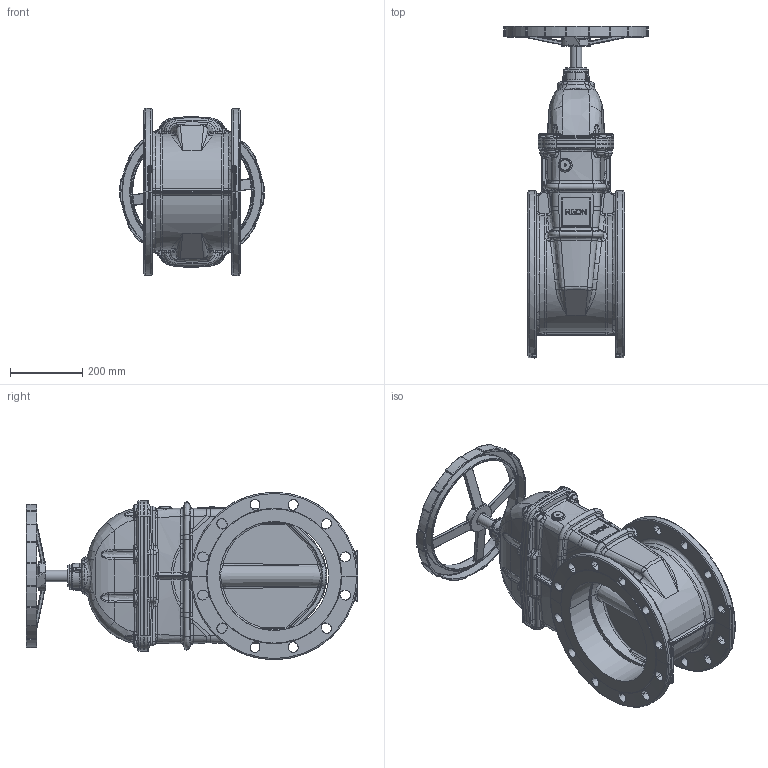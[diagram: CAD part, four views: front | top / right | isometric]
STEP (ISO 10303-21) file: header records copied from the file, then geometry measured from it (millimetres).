
FILE_DESCRIPTION (( 'STEP AP203' ), '1' );
FILE_NAME ('DN300掅概.STEP', '2026-09-23T03:54:12', ( 'Windows 蚚誧' ), ( 'Microsoft' ), 'SwSTEP 2.0', 'SolidWorks 2022', '' );
FILE_SCHEMA (( 'CONFIG_CONTROL_DESIGN' ));
Products named in the file (8): hexagon socket head cap screws gb_GB_FASTENER_SCREWS_HSHCS M16X25-N; DN300阀盖; DN300阀体; DN300阀板; DN300闸阀; DN300阀杆; DN300上铜母; D400手轮
Assembly tree (15 placements, depth 2):
  DN300闸阀
    DN300阀体
    DN300阀盖
    hexagon socket head cap screws gb_GB_FASTENER_SCREWS_HSHCS M16X25-N  x8
    DN300阀板  x2
    DN300上铜母
    D400手轮
    DN300阀杆
Bounding box: 399.84 x 917.74 x 462.3 mm (x, y, z)
Volume: 13201190.3 mm3; surface area: 2839422.3 mm2
Topology: 14 solids, 17 shells, 2810 faces, 6691 edges, 3826 vertices
Faces by surface type: bspline 1482, cylinder 599, plane 420, torus 161, cone 79, sphere 69
Entity records: 145520 total; most frequent: CARTESIAN_POINT 103503, ORIENTED_EDGE 11386, EDGE_CURVE 5701, DIRECTION 4534, VERTEX_POINT 3311, B_SPLINE_CURVE_WITH_KNOTS 3112, EDGE_LOOP 2534, ADVANCED_FACE 2419
